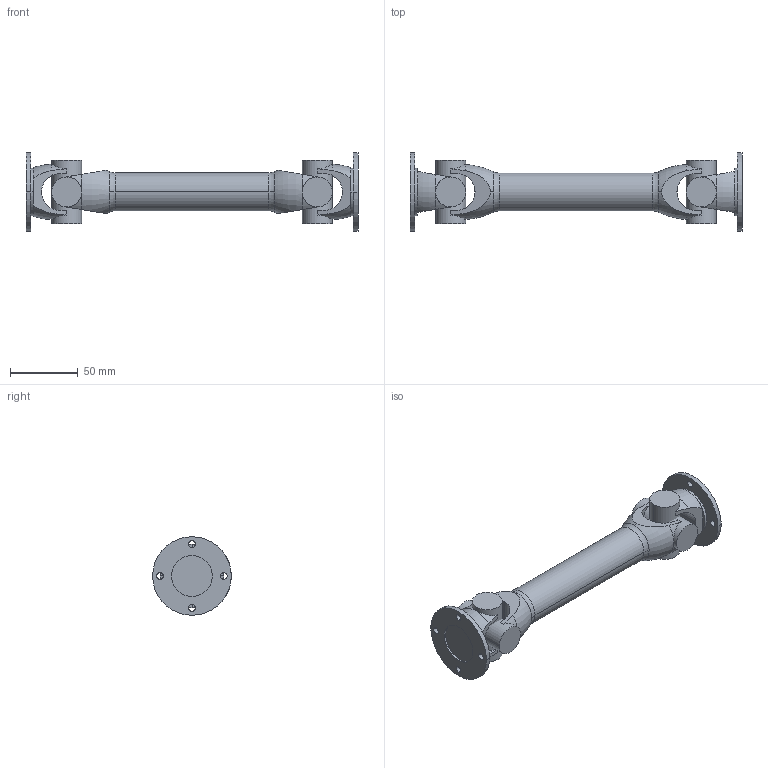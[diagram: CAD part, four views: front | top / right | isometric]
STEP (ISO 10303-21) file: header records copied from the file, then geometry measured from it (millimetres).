
FILE_DESCRIPTION(('Creo Elements/Direct Modeling STEP Export'),'2;1');
FILE_NAME('Gelenkwelle_0_105_100_X-25_S-245.stp','2014-10-17T10:30:13',(''),(''),'PTC Creo Elements/Direct Modeling STEP processor for AP214 (Solid Model)','PTC Creo Elements/Direct Modeling 19.0 09-May-2014 (C) Parametric Technology GmbH','');
FILE_SCHEMA(('AUTOMOTIVE_DESIGN { 1 0 10303 214 1 1 1 1 }'));
Length unit declared in the file: millimetre
Products named in the file (3): Welle; Flansch; Gelenkwelle_0_105_100_X-25_S-245
Assembly tree (3 placements, depth 2):
  Gelenkwelle_0_105_100_X-25_S-245
    Flansch  x2
    Welle
Bounding box: 245 x 58.14 x 58 mm (x, y, z)
Volume: 222161.2 mm3; surface area: 48323 mm2
Topology: 3 solids, 3 shells, 140 faces, 414 edges, 268 vertices
Faces by surface type: plane 62, cylinder 58, torus 20
Entity records: 6937 total; most frequent: CARTESIAN_POINT 4461, ORIENTED_EDGE 572, DIRECTION 453, EDGE_CURVE 286, VERTEX_POINT 189, AXIS2_PLACEMENT_3D 184, EDGE_LOOP 107, FACE_OUTER_BOUND 97
